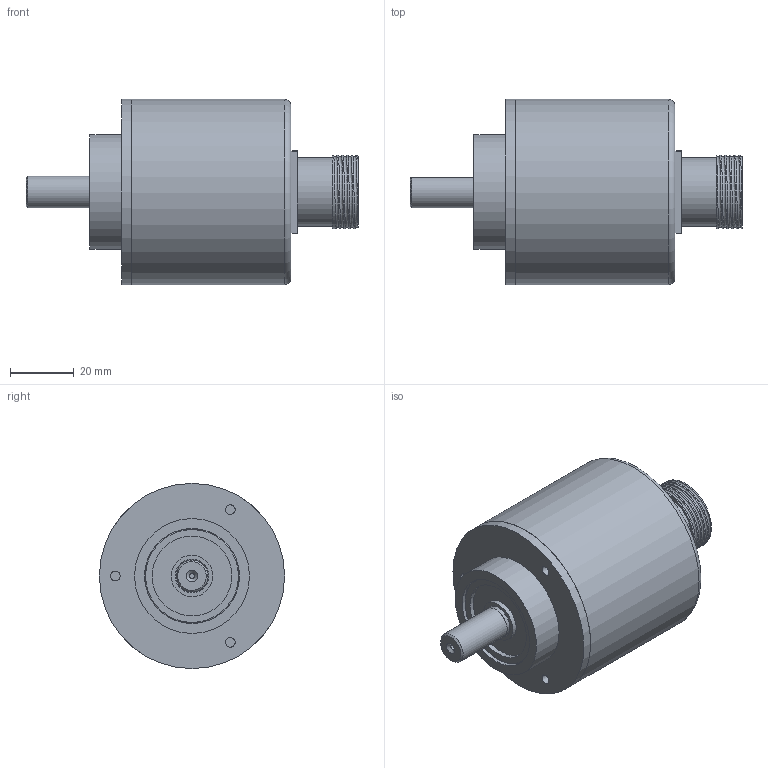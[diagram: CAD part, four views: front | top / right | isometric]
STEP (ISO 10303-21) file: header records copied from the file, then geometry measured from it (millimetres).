
FILE_DESCRIPTION(/* description */ (''),/* implementation_level */ '2;1');
FILE_NAME(/* name */ '3DCAD_EI 1058_S10x20C_M23A.stp',/* time_stamp */ '2020-07-15T10:47:02+02:00',/* author */ ('CC2'),/* organization */ ('Leuze electronic'),/* preprocessor_version */ 'ST-DEVELOPER v16',/* originating_system */ 'SIEMENS PLM Software NX 11.0',/* authorisation */ '');
FILE_SCHEMA (('AUTOMOTIVE_DESIGN { 1 0 10303 214 3 1 1 1 }'));
Length unit declared in the file: millimetre
Products named in the file (1): 19-103159_00_1-3DCAD_EI 1058_S10x20C_M23A
Bounding box: 104 x 58 x 58 mm (x, y, z)
Volume: 154905.9 mm3; surface area: 23178.2 mm2
Topology: 1 solids, 7 shells, 105 faces, 192 edges, 133 vertices
Faces by surface type: plane 54, cylinder 41, torus 5, cone 4, bspline 1
Full cylindrical faces by diameter (mm): 1 x12, 1.6 x1, 1.8 x1, 2.5 x3, 3 x9, 9.6 x1, 10.03 x1, 13 x2, 19 x1, 21.5 x1, 25 x1, 29.7 x1, 29.73 x1, 36 x1, 54.03 x1, 58 x2
Entity records: 3571 total; most frequent: CARTESIAN_POINT 1396, DIRECTION 414, ORIENTED_EDGE 278, AXIS2_PLACEMENT_3D 197, EDGE_LOOP 186, FACE_BOUND 144, EDGE_CURVE 139, VERTEX_POINT 127
